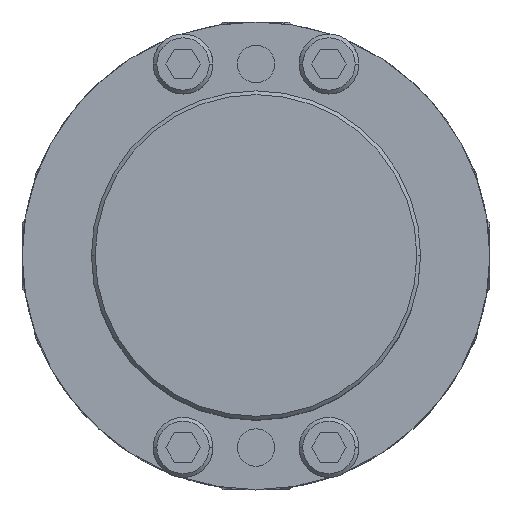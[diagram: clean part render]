
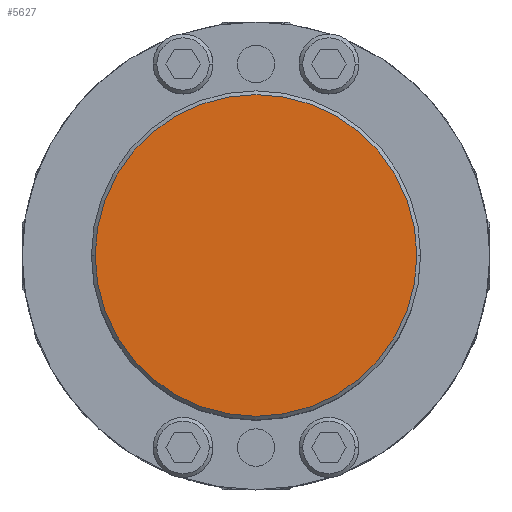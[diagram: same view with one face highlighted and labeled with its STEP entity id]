
A CAD part, top view. The second image highlights one B-rep face of the part: STEP entity #5627.
In plain terms, the highlighted planar face has unit normal (0, 0, 1).
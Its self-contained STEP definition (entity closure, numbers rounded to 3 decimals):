
#1655=CARTESIAN_POINT('',(43.,0.0,85.));
#1656=VERTEX_POINT('',#1655);
#1663=CARTESIAN_POINT('',(-43.,0.,85.0));
#1664=VERTEX_POINT('',#1663);
#1665=CARTESIAN_POINT('',(0.,0.0,85.0));
#1666=DIRECTION('',(0.0,0.0,-1.0));
#1667=DIRECTION('',(1.0,0.0,0.0));
#1668=AXIS2_PLACEMENT_3D('',#1665,#1666,#1667);
#1669=CIRCLE('',#1668,43.0);
#1670=EDGE_CURVE('',#1656,#1664,#1669,.T.);
#5590=CARTESIAN_POINT('',(0.,0.0,85.0));
#5591=DIRECTION('',(0.0,0.0,-1.0));
#5592=DIRECTION('',(1.0,0.0,0.0));
#5593=AXIS2_PLACEMENT_3D('',#5590,#5591,#5592);
#5594=CIRCLE('',#5593,43.0);
#5595=EDGE_CURVE('',#1664,#1656,#5594,.T.);
#5618=CARTESIAN_POINT('',(-4.,0.,85.0));
#5619=DIRECTION('',(0.0,0.0,1.0));
#5620=DIRECTION('',(-1.0,0.0,0.0));
#5621=AXIS2_PLACEMENT_3D('',#5618,#5619,#5620);
#5622=PLANE('',#5621);
#5623=ORIENTED_EDGE('',*,*,#5595,.F.);
#5624=ORIENTED_EDGE('',*,*,#1670,.F.);
#5625=EDGE_LOOP('',(#5623,#5624));
#5626=FACE_OUTER_BOUND('',#5625,.T.);
#5627=ADVANCED_FACE('',(#5626),#5622,.T.);
